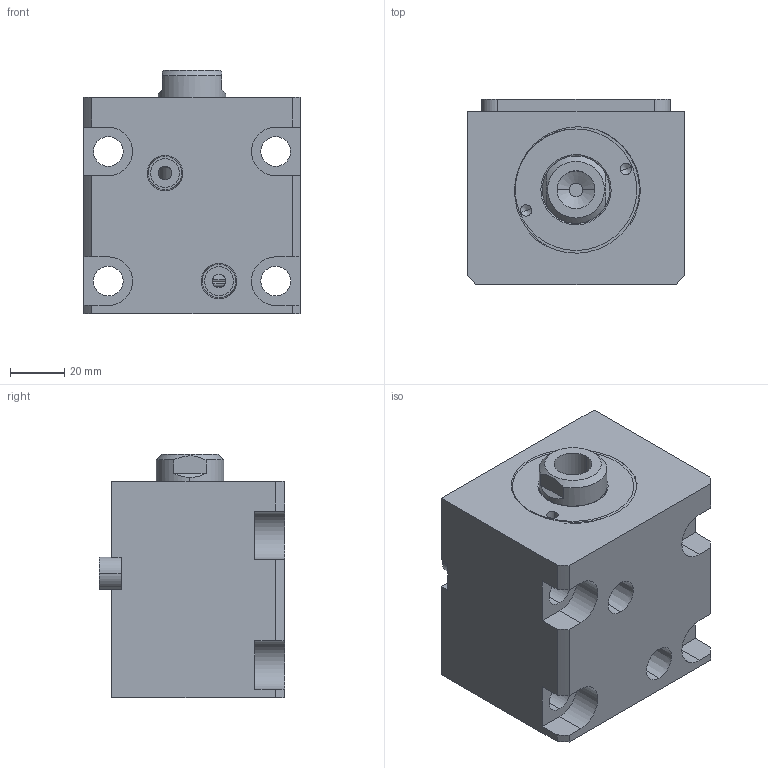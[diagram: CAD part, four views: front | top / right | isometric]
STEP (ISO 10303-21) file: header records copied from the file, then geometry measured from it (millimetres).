
FILE_DESCRIPTION (( 'STEP AP214' ), '1' );
FILE_NAME ('chtb-la40x25n_asm.STEP', '2018-05-31T01:49:09', ( 'Windows' ), ( 'Microsoft' ), 'SwSTEP 2.0', 'SolidWorks 2015', '' );
FILE_SCHEMA (( 'AUTOMOTIVE_DESIGN' ));
Length unit declared in the file: millimetre
Products named in the file (5): CHTB-LA40PJ; CHTB-SD40QG; CHTB-SD40X25NHSG; CHTB-LA40X25NBT; chtb-la40x25n_asm
Assembly tree (4 placements, depth 2):
  chtb-la40x25n_asm
    CHTB-LA40X25NBT
    CHTB-SD40X25NHSG
    CHTB-SD40QG
    CHTB-LA40PJ
Bounding box: 80 x 68.5 x 90 mm (x, y, z)
Volume: 352682.2 mm3; surface area: 76947.5 mm2
Topology: 4 solids, 4 shells, 160 faces, 430 edges, 286 vertices
Faces by surface type: cylinder 73, plane 48, bspline 14, cone 13, torus 12
Entity records: 10258 total; most frequent: CARTESIAN_POINT 6106, ORIENTED_EDGE 848, DIRECTION 787, EDGE_CURVE 424, AXIS2_PLACEMENT_3D 314, VERTEX_POINT 286, EDGE_LOOP 188, CIRCLE 161
